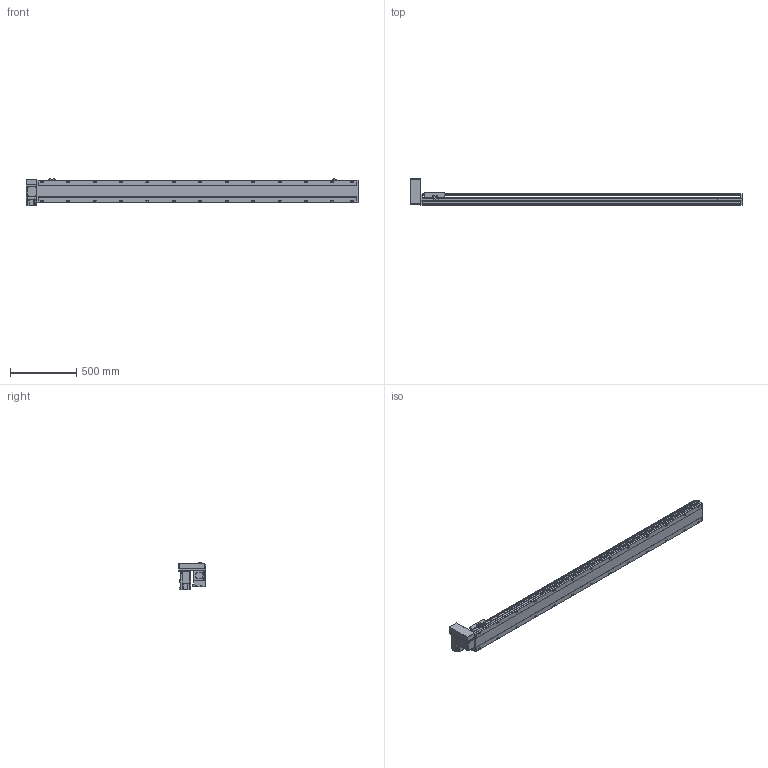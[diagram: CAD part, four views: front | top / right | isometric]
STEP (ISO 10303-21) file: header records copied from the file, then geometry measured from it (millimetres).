
FILE_DESCRIPTION( ( 'STEP AP214' ), '1' );
FILE_NAME( 'x:/temp/worker_5/temp/exporttempdir_3988_139_lztoi/format_0/PBS170-P40-S2150-RU-T75-C1-N(0).stp', '2022-06-08T06:00:11', ( 'License CC BY-ND 4.0' ), ( 'CADENAS' ), ' ', 'PARTsolutions', ' ' );
FILE_SCHEMA( ( 'AUTOMOTIVE_DESIGN { 1 0 10303 214 1 1 1 1 }' ) );
Length unit declared in the file: millimetre
Products named in the file (7): PBS170-P40-S2150-RU-T75-C1-N(0); _PBS170-S2150()_body; _PBS170T-RU_motors; _T75-p1; _PBS170_sliser; _PBS170_plant; _PBS170_sensor
Assembly tree (8 placements, depth 2):
  PBS170-P40-S2150-RU-T75-C1-N(0)
    _PBS170-S2150()_body
    _PBS170T-RU_motors
    _T75-p1
    _PBS170_sliser
    _PBS170_plant
    _PBS170_sensor  x3
Bounding box: 2513 x 206 x 205.3 mm (x, y, z)
Volume: 19185099.4 mm3; surface area: 2428560.4 mm2
Topology: 8 solids, 8 shells, 1162 faces, 3075 edges, 2004 vertices
Faces by surface type: plane 717, cylinder 379, cone 56, sphere 8, torus 2
Full cylindrical faces by diameter (mm): 3.242 x4, 4 x2, 4.4 x4, 4.5 x6, 4.917 x4, 6 x9, 6.647 x34, 7 x2, 7.5 x4, 8 x8, 8.5 x26, 10 x4, 10.5 x26, 11 x2, 30 x2, 40 x1, 70 x1
Entity records: 42950 total; most frequent: CARTESIAN_POINT 7061, DIRECTION 5650, ORIENTED_EDGE 5328, EDGE_CURVE 2664, AXIS2_PLACEMENT_3D 1987, VERTEX_POINT 1850, LINE 1676, VECTOR 1676
